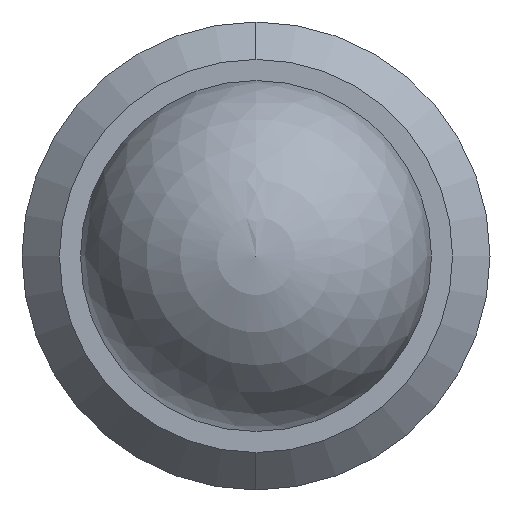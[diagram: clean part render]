
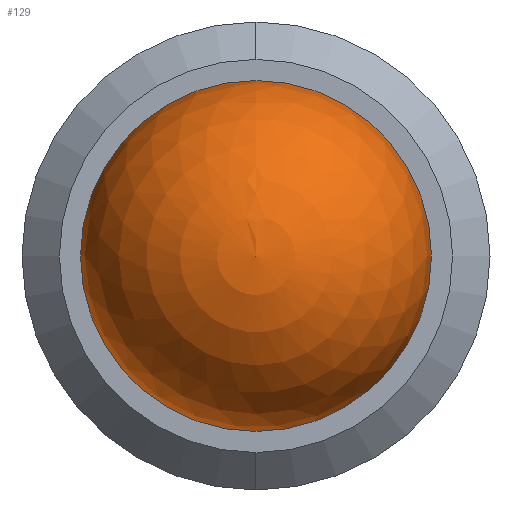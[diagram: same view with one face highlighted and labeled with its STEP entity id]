
A CAD part, left-side view. The second image highlights one B-rep face of the part: STEP entity #129.
In plain terms, the highlighted spherical face has radius 2.381 mm.
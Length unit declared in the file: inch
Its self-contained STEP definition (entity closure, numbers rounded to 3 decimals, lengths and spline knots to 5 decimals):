
#46 = CARTESIAN_POINT ( 'NONE',  ( 0., -0.09375, 0. ) ) ;
#87 = AXIS2_PLACEMENT_3D ( 'NONE', #204, #549, #411 ) ;
#129 = ADVANCED_FACE ( 'NONE', ( #270 ), #259, .T. ) ;
#145 = AXIS2_PLACEMENT_3D ( 'NONE', #553, #262, #603 ) ;
#146 = EDGE_CURVE ( 'NONE', #526, #495, #232, .T. ) ;
#177 = DIRECTION ( 'NONE',  ( -1., 0., 0. ) ) ;
#204 = CARTESIAN_POINT ( 'NONE',  ( 0., 0., 0. ) ) ;
#205 = CIRCLE ( 'NONE', #606, 0.09375 ) ;
#232 = CIRCLE ( 'NONE', #145, 0.09375 ) ;
#259 = SPHERICAL_SURFACE ( 'NONE', #87, 0.09375 ) ;
#262 = DIRECTION ( 'NONE',  ( 1., 0., 0. ) ) ;
#270 = FACE_OUTER_BOUND ( 'NONE', #483, .T. ) ;
#363 = EDGE_CURVE ( 'NONE', #526, #495, #205, .T. ) ;
#411 = DIRECTION ( 'NONE',  ( 0., 0., 1. ) ) ;
#461 = CARTESIAN_POINT ( 'NONE',  ( 0., 0., 0. ) ) ;
#463 = ORIENTED_EDGE ( 'NONE', *, *, #146, .F. ) ;
#483 = EDGE_LOOP ( 'NONE', ( #463, #547 ) ) ;
#495 = VERTEX_POINT ( 'NONE', #46 ) ;
#510 = DIRECTION ( 'NONE',  ( 0., 0., 1. ) ) ;
#526 = VERTEX_POINT ( 'NONE', #629 ) ;
#547 = ORIENTED_EDGE ( 'NONE', *, *, #363, .T. ) ;
#549 = DIRECTION ( 'NONE',  ( -1., 0., 0. ) ) ;
#553 = CARTESIAN_POINT ( 'NONE',  ( 0., 0., 0. ) ) ;
#603 = DIRECTION ( 'NONE',  ( 0., 0., -1. ) ) ;
#606 = AXIS2_PLACEMENT_3D ( 'NONE', #461, #177, #510 ) ;
#629 = CARTESIAN_POINT ( 'NONE',  ( 0., 0.09375, 0. ) ) ;
